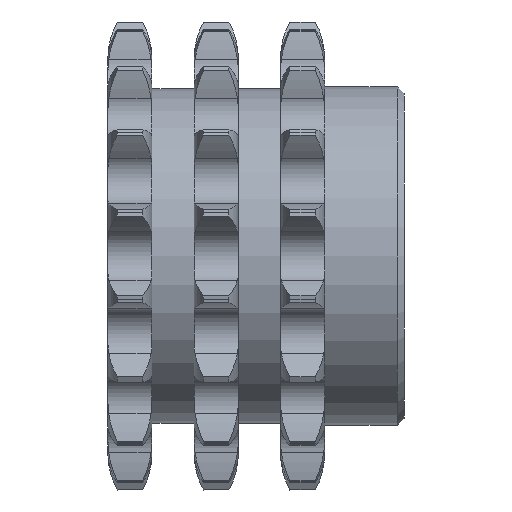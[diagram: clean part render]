
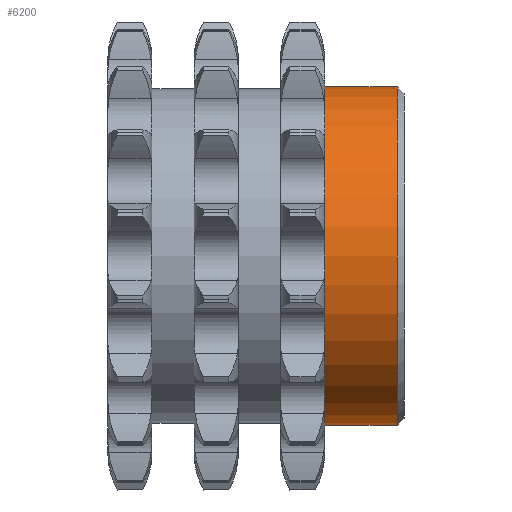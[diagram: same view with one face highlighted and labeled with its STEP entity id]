
A CAD part, front view. The second image highlights one B-rep face of the part: STEP entity #6200.
In plain terms, the highlighted cylindrical face has radius 20000 mm (diameter 40000 mm), a full revolution.
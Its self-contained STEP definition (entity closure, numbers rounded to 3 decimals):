
#25=FACE_BOUND('',#1086,.T.);
#348=CIRCLE('',#6700,20000.);
#403=CIRCLE('',#6803,20000.);
#740=FACE_OUTER_BOUND('',#1085,.T.);
#1085=EDGE_LOOP('',(#5591));
#1086=EDGE_LOOP('',(#5592));
#2685=VERTEX_POINT('',#14159);
#2689=VERTEX_POINT('',#14266);
#3616=EDGE_CURVE('',#2685,#2685,#348,.T.);
#3671=EDGE_CURVE('',#2689,#2689,#403,.T.);
#5591=ORIENTED_EDGE('',*,*,#3616,.T.);
#5592=ORIENTED_EDGE('',*,*,#3671,.F.);
#5868=CYLINDRICAL_SURFACE('',#6802,20000.);
#6200=ADVANCED_FACE('',(#740,#25),#5868,.T.);
#6700=AXIS2_PLACEMENT_3D('',#14160,#8021,#8022);
#6802=AXIS2_PLACEMENT_3D('',#14265,#8225,#8226);
#6803=AXIS2_PLACEMENT_3D('',#14267,#8227,#8228);
#8021=DIRECTION('center_axis',(1.,0.,0.));
#8022=DIRECTION('ref_axis',(0.,0.,-1.));
#8225=DIRECTION('center_axis',(1.,0.,0.));
#8226=DIRECTION('ref_axis',(0.,1.,0.));
#8227=DIRECTION('center_axis',(1.,0.,0.));
#8228=DIRECTION('ref_axis',(0.,0.,-1.));
#14159=CARTESIAN_POINT('',(29083.926,19984.975,0.));
#14160=CARTESIAN_POINT('Origin',(29083.926,-15.025,0.));
#14265=CARTESIAN_POINT('Origin',(33383.926,-15.025,0.));
#14266=CARTESIAN_POINT('',(37683.926,19984.975,0.));
#14267=CARTESIAN_POINT('Origin',(37683.926,-15.025,0.));
